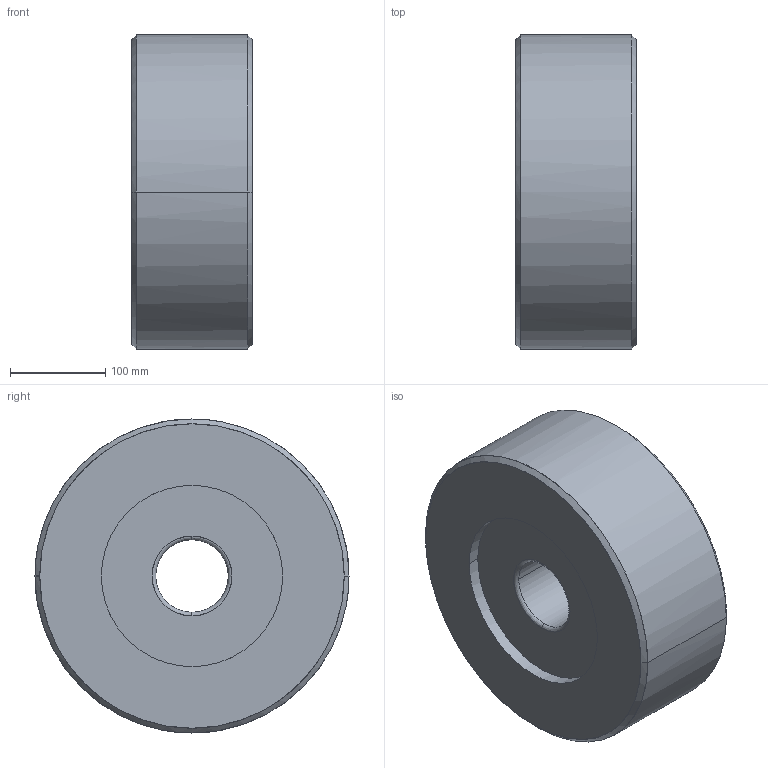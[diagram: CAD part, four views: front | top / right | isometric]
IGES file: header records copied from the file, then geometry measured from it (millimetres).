
Global section: native system: Kubotek KeyCreator; preprocessor: KCM Version 1.1.1442.0; author: KeyCreator User; organization: Self; date: 20170713.024419; units: inch
Bounding box: 127 x 330.2 x 330.2 mm (x, y, z)
Surface area: 326501.8 mm2 (no closed solid volume)
Topology: 0 solids, 0 shells, 20 faces, 128 edges, 128 vertices
Faces by surface type: bspline 20
